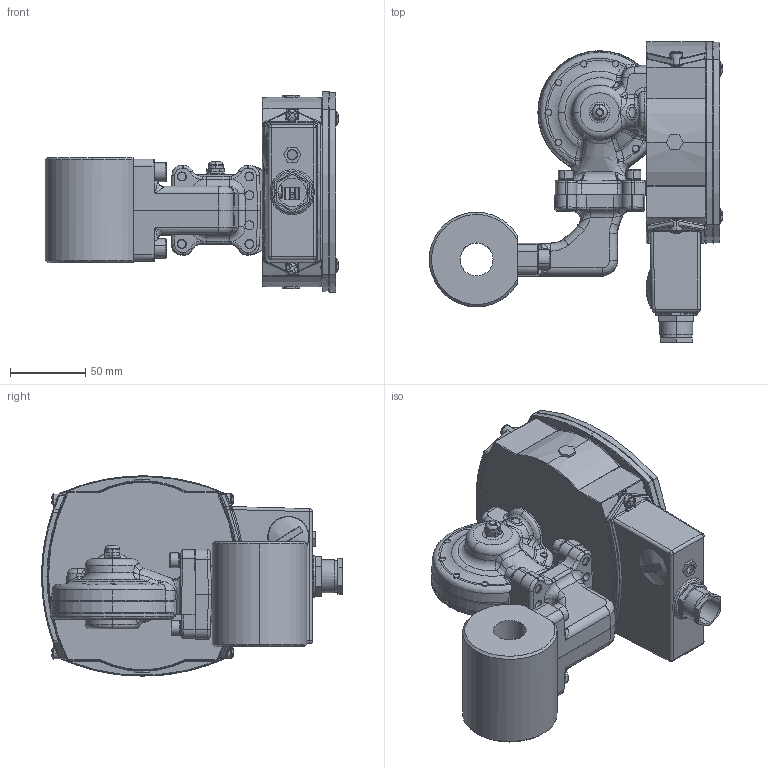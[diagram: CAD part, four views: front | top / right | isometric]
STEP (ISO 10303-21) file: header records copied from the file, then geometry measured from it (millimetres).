
FILE_DESCRIPTION (( 'STEP AP214' ), '1' );
FILE_NAME ('S FA20.STEP', '2016-09-21T06:32:11', ( 'User' ), ( 'HP' ), 'SwSTEP 2.0', 'SolidWorks 2016', '' );
FILE_SCHEMA (( 'AUTOMOTIVE_DESIGN' ));
Length unit declared in the file: millimetre
Products named in the file (35): ID_12; fa hals; ID_1_1; ID_2_2; ID_1_4_5; ID_1_2; ID_10; membranhus br; ID_1_4_4; M5 membranskruvar_1; ID_1_4_3; skruv_membranhus_1; ID_1_1_2; fj_X_E4derbricka till membranhus BR_1; ID_9; MC6S M6x22_1; ID_1_4_2; Lock kontrollerad HMAB ELETTA 20160908_1; ID_7_2; ID_6_1; Membranhus kontrollerad HMAB ELETTA 20160908_1; ID_5_2; ID_4_3; S2_25_internal_2_1; ID_3_3; kupolmutter_1; ID_2_4; m_X_E4ssingsmembran_1; ID_1_4; S hus; ID_1_4_8; S FA20; ID_14; ID_13; FA20 anslutningsror
Assembly tree (54 placements, depth 5):
  S FA20
    S hus
      ID_1_1
        ID_1_4
        ID_2_4
        ID_3_3
        ID_4_3
        ID_5_2
        ID_6_1  x4
        ID_7_2  x4
        ID_1_4_2
        ID_1_1_2
          ID_9  x2
        ID_1_4_3
        ID_1_4_4
        ID_10
        ID_1_4_5
      ID_12  x2
      ID_13
      ID_14
      ID_1_4_8
    membranhus br
      S2_25_internal_2_1
        m_X_E4ssingsmembran_1
        kupolmutter_1
      Membranhus kontrollerad HMAB ELETTA 20160908_1
      Lock kontrollerad HMAB ELETTA 20160908_1
      MC6S M6x22_1  x4
      M5 membranskruvar_1  x9
        fj_X_E4derbricka till membranhus BR_1
        skruv_membranhus_1
    fa hals
      ID_1_2
      ID_2_2  x2
    FA20 anslutningsror
Bounding box: 195.5 x 200.42 x 133.42 mm (x, y, z)
Volume: 675063.9 mm3; surface area: 272737.2 mm2
Topology: 56 solids, 56 shells, 2415 faces, 5937 edges, 3684 vertices
Faces by surface type: plane 862, cylinder 687, bspline 585, cone 207, torus 67, sphere 7
Entity records: 101069 total; most frequent: CARTESIAN_POINT 58774, ORIENTED_EDGE 9340, DIRECTION 7188, EDGE_CURVE 4670, VERTEX_POINT 2917, AXIS2_PLACEMENT_3D 2681, EDGE_LOOP 2107, FACE_OUTER_BOUND 1892
